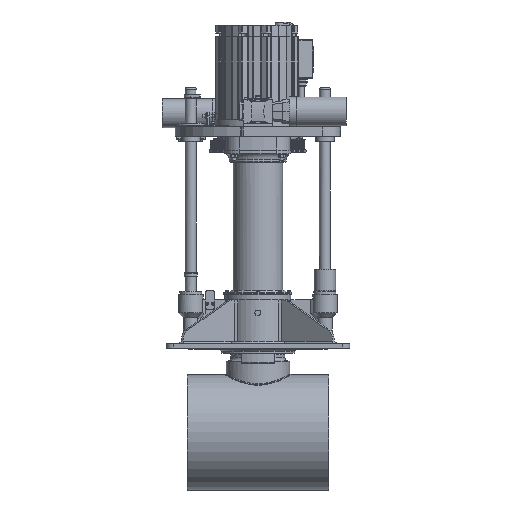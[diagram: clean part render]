
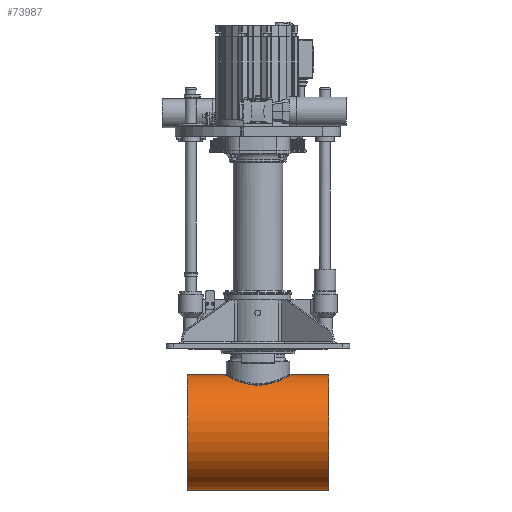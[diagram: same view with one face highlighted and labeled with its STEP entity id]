
A CAD part, front view. The second image highlights one B-rep face of the part: STEP entity #73987.
In plain terms, the highlighted cylindrical face has radius 156.7 mm (diameter 313.4 mm), a full revolution.
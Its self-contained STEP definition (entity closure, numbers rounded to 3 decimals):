
#432=FACE_BOUND('',#11354,.T.);
#3829=B_SPLINE_CURVE_WITH_KNOTS('',3,(#122704,#122705,#122706,#122707,#122708,
#122709,#122710,#122711,#122712,#122713,#122714,#122715,#122716,#122717,
#122718,#122719,#122720,#122721),.UNSPECIFIED.,.F.,.F.,(4,2,2,2,2,2,2,2,
4),(0.,0.959,1.918,2.876,3.835,
4.793,5.752,6.71,7.669),
 .UNSPECIFIED.);
#3830=B_SPLINE_CURVE_WITH_KNOTS('',3,(#122722,#122723,#122724,#122725,#122726,
#122727,#122728,#122729,#122730,#122731,#122732,#122733,#122734,#122735,
#122736,#122737,#122738,#122739,#122740,#122741,#122742,#122743,#122744,
#122745,#122746,#122747,#122748,#122749,#122750,#122751,#122752,#122753,
#122754,#122755,#122756,#122757,#122758,#122759,#122760,#122761,#122762,
#122763,#122764,#122765,#122766,#122767,#122768,#122769,#122770,#122771),
 .UNSPECIFIED.,.F.,.F.,(4,2,2,2,2,2,2,2,2,2,2,2,2,2,2,2,2,2,2,2,2,2,2,2,
4),(7.669,8.627,9.585,10.544,
11.502,12.461,13.42,14.378,15.337,
16.296,17.255,18.213,19.172,20.131,
21.089,22.047,23.006,23.964,24.922,
25.881,26.839,27.798,28.757,29.716,
30.674),.UNSPECIFIED.);
#4476=CYLINDRICAL_SURFACE('',#79820,156.7);
#7054=FACE_OUTER_BOUND('',#11353,.T.);
#11353=EDGE_LOOP('',(#55617,#55618,#55619,#55620));
#11354=EDGE_LOOP('',(#55621,#55622));
#16491=LINE('',#122700,#22176);
#22176=VECTOR('',#93483,156.7);
#27137=CIRCLE('',#79821,156.7);
#27138=CIRCLE('',#79822,156.7);
#32581=VERTEX_POINT('',#122697);
#32582=VERTEX_POINT('',#122699);
#32583=VERTEX_POINT('',#122702);
#32584=VERTEX_POINT('',#122703);
#40941=EDGE_CURVE('',#32581,#32581,#27137,.T.);
#40942=EDGE_CURVE('',#32581,#32582,#16491,.T.);
#40943=EDGE_CURVE('',#32582,#32582,#27138,.T.);
#40944=EDGE_CURVE('',#32583,#32584,#3829,.T.);
#40945=EDGE_CURVE('',#32584,#32583,#3830,.T.);
#55617=ORIENTED_EDGE('',*,*,#40941,.T.);
#55618=ORIENTED_EDGE('',*,*,#40942,.T.);
#55619=ORIENTED_EDGE('',*,*,#40943,.T.);
#55620=ORIENTED_EDGE('',*,*,#40942,.F.);
#55621=ORIENTED_EDGE('',*,*,#40944,.T.);
#55622=ORIENTED_EDGE('',*,*,#40945,.T.);
#73987=ADVANCED_FACE('',(#7054,#432),#4476,.T.);
#79820=AXIS2_PLACEMENT_3D('',#122696,#93479,#93480);
#79821=AXIS2_PLACEMENT_3D('',#122698,#93481,#93482);
#79822=AXIS2_PLACEMENT_3D('',#122701,#93484,#93485);
#93479=DIRECTION('center_axis',(-1.,0.,0.));
#93480=DIRECTION('ref_axis',(0.,0.,1.));
#93481=DIRECTION('center_axis',(1.,0.,0.));
#93482=DIRECTION('ref_axis',(0.,0.,1.));
#93483=DIRECTION('',(1.,0.,0.));
#93484=DIRECTION('center_axis',(-1.,0.,0.));
#93485=DIRECTION('ref_axis',(0.,0.,1.));
#122696=CARTESIAN_POINT('Origin',(0.,0.,
-227.027));
#122697=CARTESIAN_POINT('',(-192.5,0.,-383.727));
#122698=CARTESIAN_POINT('Origin',(-192.5,0.,-227.027));
#122699=CARTESIAN_POINT('',(192.5,0.,-383.727));
#122700=CARTESIAN_POINT('',(0.,0.,
-383.727));
#122701=CARTESIAN_POINT('Origin',(192.5,0.,-227.027));
#122702=CARTESIAN_POINT('',(0.,50.5,-78.687));
#122703=CARTESIAN_POINT('',(50.5,0.,-70.327));
#122704=CARTESIAN_POINT('Ctrl Pts',(0.,50.5,-78.687));
#122705=CARTESIAN_POINT('Ctrl Pts',(3.196,50.5,-78.687));
#122706=CARTESIAN_POINT('Ctrl Pts',(6.493,50.192,-78.581));
#122707=CARTESIAN_POINT('Ctrl Pts',(13.036,48.902,-78.151));
#122708=CARTESIAN_POINT('Ctrl Pts',(16.282,47.921,-77.828));
#122709=CARTESIAN_POINT('Ctrl Pts',(22.496,45.338,-77.023));
#122710=CARTESIAN_POINT('Ctrl Pts',(25.468,43.733,-76.541));
#122711=CARTESIAN_POINT('Ctrl Pts',(30.96,40.034,-75.515));
#122712=CARTESIAN_POINT('Ctrl Pts',(33.479,37.938,-74.972));
#122713=CARTESIAN_POINT('Ctrl Pts',(37.938,33.48,-73.928));
#122714=CARTESIAN_POINT('Ctrl Pts',(40.033,30.961,-73.391));
#122715=CARTESIAN_POINT('Ctrl Pts',(43.732,25.469,-72.385));
#122716=CARTESIAN_POINT('Ctrl Pts',(45.338,22.496,-71.918));
#122717=CARTESIAN_POINT('Ctrl Pts',(47.922,16.281,-71.144));
#122718=CARTESIAN_POINT('Ctrl Pts',(48.903,13.034,-70.836));
#122719=CARTESIAN_POINT('Ctrl Pts',(50.192,6.491,-70.427));
#122720=CARTESIAN_POINT('Ctrl Pts',(50.5,3.195,-70.327));
#122721=CARTESIAN_POINT('Ctrl Pts',(50.5,0.,-70.327));
#122722=CARTESIAN_POINT('Ctrl Pts',(50.5,0.,-70.327));
#122723=CARTESIAN_POINT('Ctrl Pts',(50.5,-3.195,-70.327));
#122724=CARTESIAN_POINT('Ctrl Pts',(50.192,-6.491,
-70.427));
#122725=CARTESIAN_POINT('Ctrl Pts',(48.903,-13.034,
-70.836));
#122726=CARTESIAN_POINT('Ctrl Pts',(47.922,-16.281,
-71.144));
#122727=CARTESIAN_POINT('Ctrl Pts',(45.338,-22.496,
-71.918));
#122728=CARTESIAN_POINT('Ctrl Pts',(43.732,-25.469,-72.385));
#122729=CARTESIAN_POINT('Ctrl Pts',(40.033,-30.961,-73.391));
#122730=CARTESIAN_POINT('Ctrl Pts',(37.938,-33.48,
-73.928));
#122731=CARTESIAN_POINT('Ctrl Pts',(33.479,-37.938,
-74.972));
#122732=CARTESIAN_POINT('Ctrl Pts',(30.96,-40.034,
-75.515));
#122733=CARTESIAN_POINT('Ctrl Pts',(25.468,-43.733,
-76.541));
#122734=CARTESIAN_POINT('Ctrl Pts',(22.496,-45.338,
-77.023));
#122735=CARTESIAN_POINT('Ctrl Pts',(16.282,-47.921,
-77.828));
#122736=CARTESIAN_POINT('Ctrl Pts',(13.036,-48.902,
-78.151));
#122737=CARTESIAN_POINT('Ctrl Pts',(6.493,-50.192,
-78.581));
#122738=CARTESIAN_POINT('Ctrl Pts',(3.196,-50.5,-78.687));
#122739=CARTESIAN_POINT('Ctrl Pts',(-3.196,-50.5,-78.687));
#122740=CARTESIAN_POINT('Ctrl Pts',(-6.493,-50.192,
-78.581));
#122741=CARTESIAN_POINT('Ctrl Pts',(-13.036,-48.902,
-78.151));
#122742=CARTESIAN_POINT('Ctrl Pts',(-16.282,-47.921,
-77.828));
#122743=CARTESIAN_POINT('Ctrl Pts',(-22.496,-45.338,
-77.023));
#122744=CARTESIAN_POINT('Ctrl Pts',(-25.468,-43.733,
-76.541));
#122745=CARTESIAN_POINT('Ctrl Pts',(-30.96,-40.034,
-75.515));
#122746=CARTESIAN_POINT('Ctrl Pts',(-33.479,-37.938,
-74.972));
#122747=CARTESIAN_POINT('Ctrl Pts',(-37.938,-33.48,
-73.928));
#122748=CARTESIAN_POINT('Ctrl Pts',(-40.033,-30.961,
-73.391));
#122749=CARTESIAN_POINT('Ctrl Pts',(-43.732,-25.469,
-72.385));
#122750=CARTESIAN_POINT('Ctrl Pts',(-45.338,-22.496,
-71.918));
#122751=CARTESIAN_POINT('Ctrl Pts',(-47.922,-16.281,
-71.144));
#122752=CARTESIAN_POINT('Ctrl Pts',(-48.903,-13.034,
-70.836));
#122753=CARTESIAN_POINT('Ctrl Pts',(-50.192,-6.491,
-70.427));
#122754=CARTESIAN_POINT('Ctrl Pts',(-50.5,-3.195,-70.327));
#122755=CARTESIAN_POINT('Ctrl Pts',(-50.5,3.195,-70.327));
#122756=CARTESIAN_POINT('Ctrl Pts',(-50.192,6.491,
-70.427));
#122757=CARTESIAN_POINT('Ctrl Pts',(-48.903,13.034,-70.836));
#122758=CARTESIAN_POINT('Ctrl Pts',(-47.922,16.281,-71.144));
#122759=CARTESIAN_POINT('Ctrl Pts',(-45.338,22.496,
-71.918));
#122760=CARTESIAN_POINT('Ctrl Pts',(-43.732,25.469,-72.385));
#122761=CARTESIAN_POINT('Ctrl Pts',(-40.033,30.961,
-73.391));
#122762=CARTESIAN_POINT('Ctrl Pts',(-37.938,33.48,
-73.928));
#122763=CARTESIAN_POINT('Ctrl Pts',(-33.479,37.938,
-74.972));
#122764=CARTESIAN_POINT('Ctrl Pts',(-30.96,40.034,
-75.515));
#122765=CARTESIAN_POINT('Ctrl Pts',(-25.468,43.733,
-76.541));
#122766=CARTESIAN_POINT('Ctrl Pts',(-22.496,45.338,
-77.023));
#122767=CARTESIAN_POINT('Ctrl Pts',(-16.282,47.921,
-77.828));
#122768=CARTESIAN_POINT('Ctrl Pts',(-13.036,48.902,
-78.151));
#122769=CARTESIAN_POINT('Ctrl Pts',(-6.493,50.192,
-78.581));
#122770=CARTESIAN_POINT('Ctrl Pts',(-3.196,50.5,-78.687));
#122771=CARTESIAN_POINT('Ctrl Pts',(0.,50.5,-78.687));
